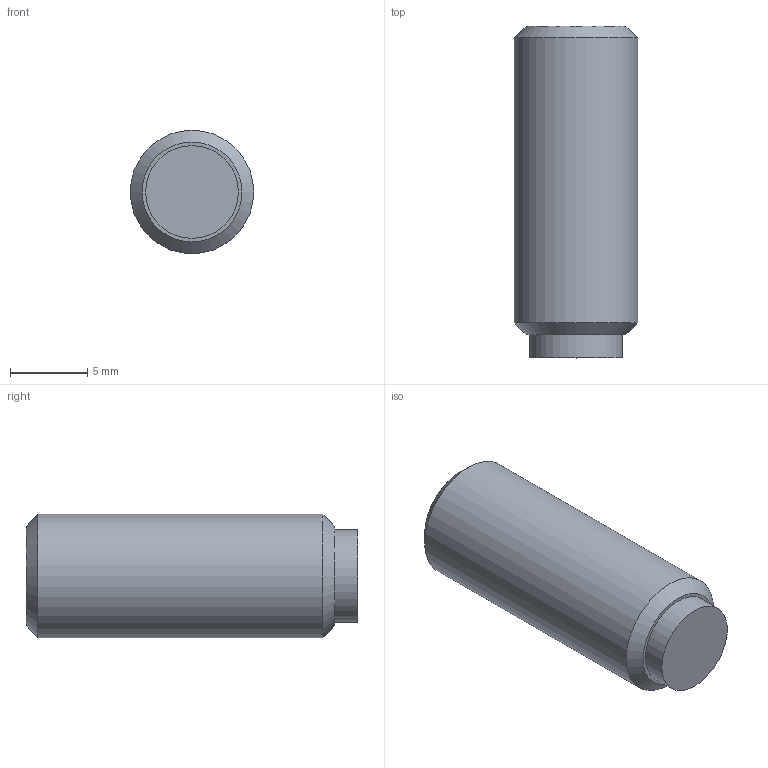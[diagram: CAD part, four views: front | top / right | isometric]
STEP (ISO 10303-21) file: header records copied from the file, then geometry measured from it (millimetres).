
FILE_DESCRIPTION( ( 'STEP AP203' ), '1' );
FILE_NAME( 'C:/Temp/Ganter_Step_05_03_2020/data/3_2/gn913_3/Grub screw GN 913.3-M8-20-MS.stp', '2020-03-13T05:35:50', ( 'License CC BY-ND 4.0' ), ( 'CADENAS' ), ' ', 'PARTsolutions', ' ' );
FILE_SCHEMA( ( 'CONFIG_CONTROL_DESIGN' ) );
Length unit declared in the file: millimetre
Products named in the file (1): _Grub screw GN 913.3-M8-20-MS
Bounding box: 8 x 21.5 x 8 mm (x, y, z)
Volume: 964.6 mm3; surface area: 676.6 mm2
Topology: 1 solids, 1 shells, 14 faces, 28 edges, 18 vertices
Faces by surface type: plane 10, cylinder 2, cone 2
Full cylindrical faces by diameter (mm): 6 x1, 8 x1
Entity records: 386 total; most frequent: DIRECTION 60, CARTESIAN_POINT 57, ORIENTED_EDGE 48, EDGE_CURVE 24, AXIS2_PLACEMENT_3D 21, EDGE_LOOP 20, VERTEX_POINT 18, LINE 18
